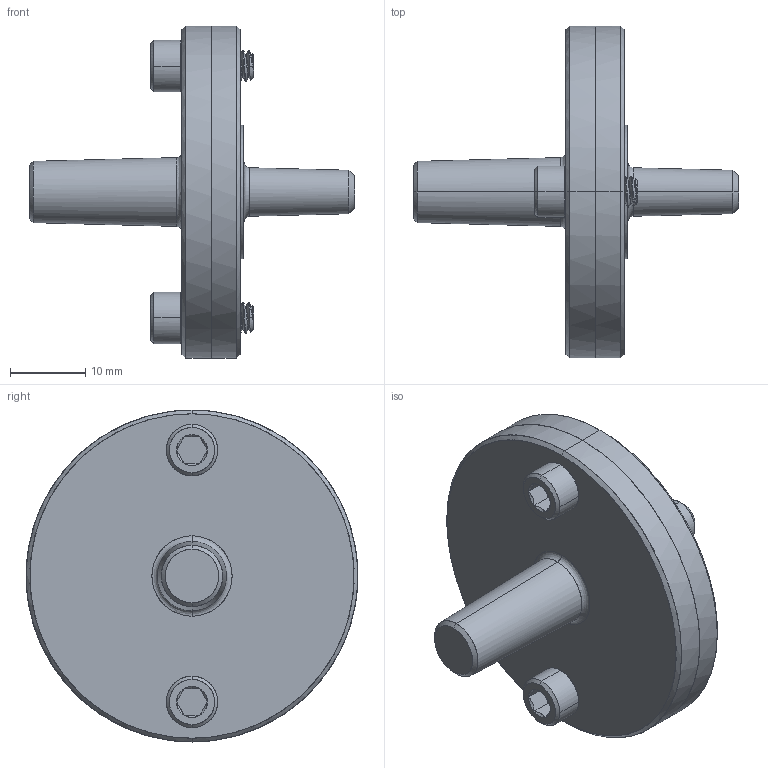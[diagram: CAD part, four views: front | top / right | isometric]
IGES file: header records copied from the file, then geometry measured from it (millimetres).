
Start section: Comment
Global section: file name: 1204.igs; native system:  By Spatial Corp.; preprocessor: XPlus PS/IGES 3.0; author: sherline; organization: Title; date: 20210930.192957; units: inch
Bounding box: 43.31 x 44.18 x 44.2 mm (x, y, z)
Surface area: 8818.3 mm2 (no closed solid volume)
Topology: 0 solids, 0 shells, 225 faces, 1448 edges, 1448 vertices
Faces by surface type: revolution 192, extrusion 29, bspline 4
